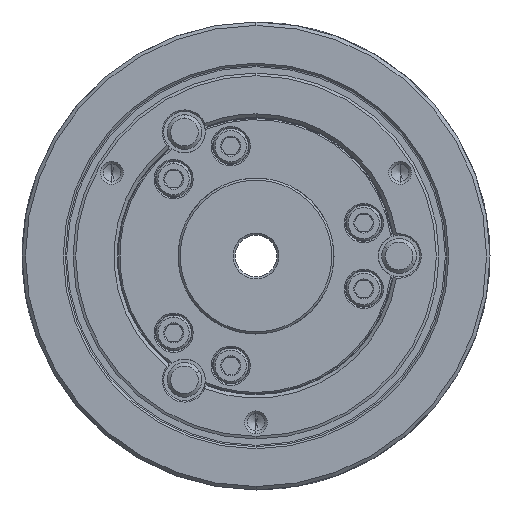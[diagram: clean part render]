
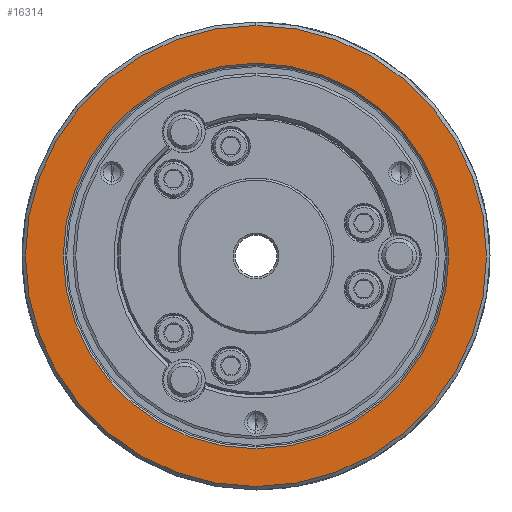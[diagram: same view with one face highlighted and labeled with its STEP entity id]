
A CAD part, left-side view. The second image highlights one B-rep face of the part: STEP entity #16314.
In plain terms, the highlighted planar face has unit normal (-1, 0, 0).
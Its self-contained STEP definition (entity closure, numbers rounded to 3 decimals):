
#1973 = ORIENTED_EDGE ( 'NONE', *, *, #10390, .T. ) ;
#7006 = VERTEX_POINT ( 'NONE', #65282 ) ;
#7991 = AXIS2_PLACEMENT_3D ( 'NONE', #39586, #21191, #65891 ) ;
#8787 = CARTESIAN_POINT ( 'NONE',  ( -60., 0., 55.6 ) ) ;
#10390 = EDGE_CURVE ( 'NONE', #21106, #78513, #43609, .T. ) ;
#11591 = CIRCLE ( 'NONE', #54935, 55.6 ) ;
#11785 = CIRCLE ( 'NONE', #16072, 66.5 ) ;
#12307 = PLANE ( 'NONE',  #13858 ) ;
#13578 = CARTESIAN_POINT ( 'NONE',  ( -60., 0., -66.5 ) ) ;
#13858 = AXIS2_PLACEMENT_3D ( 'NONE', #32446, #79738, #85855 ) ;
#15547 = ORIENTED_EDGE ( 'NONE', *, *, #20450, .T. ) ;
#16072 = AXIS2_PLACEMENT_3D ( 'NONE', #50848, #38587, #51715 ) ;
#16314 = ADVANCED_FACE ( 'NONE', ( #33316, #72279 ), #12307, .T. ) ;
#18116 = DIRECTION ( 'NONE',  ( 1., 0., 0. ) ) ;
#20450 = EDGE_CURVE ( 'NONE', #78513, #21106, #11591, .T. ) ;
#21106 = VERTEX_POINT ( 'NONE', #8787 ) ;
#21191 = DIRECTION ( 'NONE',  ( 1., 0., 0. ) ) ;
#23359 = CIRCLE ( 'NONE', #7991, 66.5 ) ;
#25584 = VERTEX_POINT ( 'NONE', #13578 ) ;
#28693 = EDGE_LOOP ( 'NONE', ( #1973, #15547 ) ) ;
#32446 = CARTESIAN_POINT ( 'NONE',  ( -60., 55.6, 0. ) ) ;
#32721 = EDGE_LOOP ( 'NONE', ( #74386, #69356 ) ) ;
#33316 = FACE_BOUND ( 'NONE', #28693, .T. ) ;
#38587 = DIRECTION ( 'NONE',  ( 1., 0., 0. ) ) ;
#39586 = CARTESIAN_POINT ( 'NONE',  ( -60., 0., 0. ) ) ;
#43122 = CARTESIAN_POINT ( 'NONE',  ( -60., 0., 0. ) ) ;
#43609 = CIRCLE ( 'NONE', #81386, 55.6 ) ;
#50848 = CARTESIAN_POINT ( 'NONE',  ( -60., 0., 0. ) ) ;
#51715 = DIRECTION ( 'NONE',  ( 0., 0., -1. ) ) ;
#51799 = DIRECTION ( 'NONE',  ( 1., 0., 0. ) ) ;
#54935 = AXIS2_PLACEMENT_3D ( 'NONE', #43122, #18116, #76408 ) ;
#58856 = DIRECTION ( 'NONE',  ( 0., 0., -1. ) ) ;
#61831 = EDGE_CURVE ( 'NONE', #25584, #7006, #11785, .T. ) ;
#64459 = EDGE_CURVE ( 'NONE', #7006, #25584, #23359, .T. ) ;
#65282 = CARTESIAN_POINT ( 'NONE',  ( -60., 0., 66.5 ) ) ;
#65554 = CARTESIAN_POINT ( 'NONE',  ( -60., 0., -55.6 ) ) ;
#65891 = DIRECTION ( 'NONE',  ( 0., 0., -1. ) ) ;
#69356 = ORIENTED_EDGE ( 'NONE', *, *, #64459, .F. ) ;
#72279 = FACE_OUTER_BOUND ( 'NONE', #32721, .T. ) ;
#74386 = ORIENTED_EDGE ( 'NONE', *, *, #61831, .F. ) ;
#76408 = DIRECTION ( 'NONE',  ( 0., 0., -1. ) ) ;
#78513 = VERTEX_POINT ( 'NONE', #65554 ) ;
#79407 = CARTESIAN_POINT ( 'NONE',  ( -60., 0., 0. ) ) ;
#79738 = DIRECTION ( 'NONE',  ( -1., 0., 0. ) ) ;
#81386 = AXIS2_PLACEMENT_3D ( 'NONE', #79407, #51799, #58856 ) ;
#85855 = DIRECTION ( 'NONE',  ( 0., 0., 1. ) ) ;
